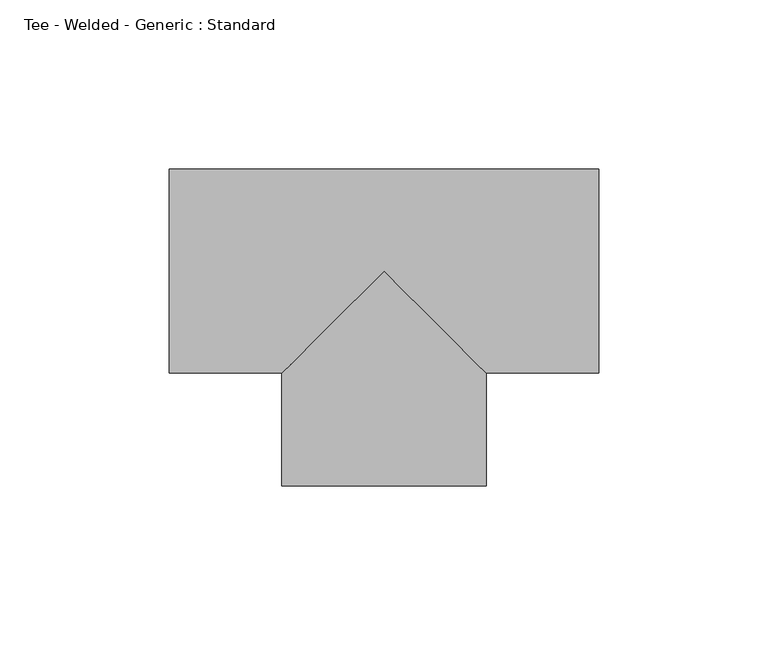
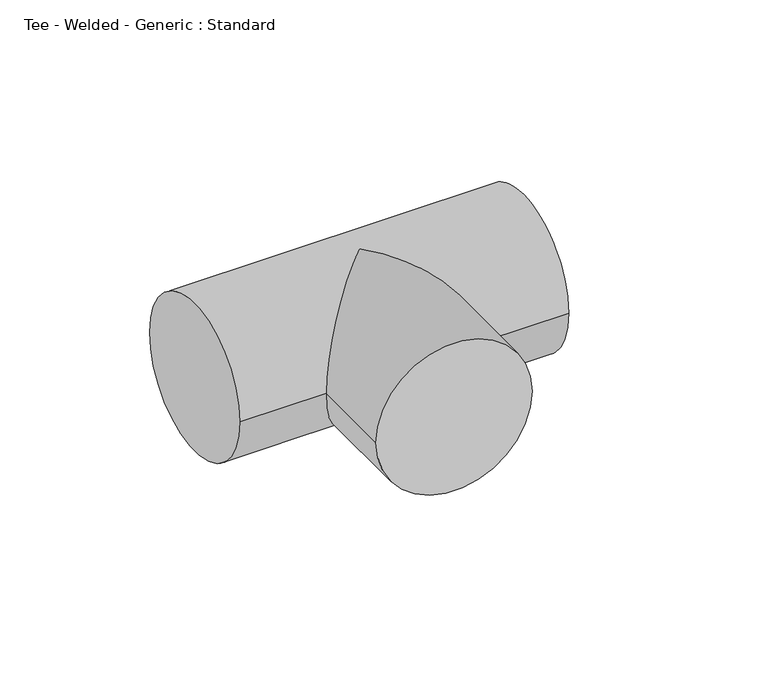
"""IFC4 building model written with IfcOpenShell, lengths in millimetres: pipe fitting geometry, Tee - Welded - Generic : Standard."""

from ifc_helpers import new_model, si_unit, frame, origin, place, context, project, spatial, circle_curve, ellipse_curve, source, transform, mapped, element, save
from ifc_brep_helpers import plane_surface, cylinder_surface, advanced_brep


def tee_welded_generic_standard_5b01b295(model_context):
    return source(origin(), model_context, "Body", "AdvancedBrep", [
        advanced_brep(
        [(-63.5, -30.1625, 0.0), (-63.5, 30.1625, 0.0), (63.5, -30.1625, 0.0), (63.5, 30.1625, 0.0), (-30.1624905, -30.1625, 0.0), (0.0, 0.0, 30.1625), (30.1625095, -30.1625, 0.0), (0.0, 0.0, -30.1625), (-30.1624799, -63.5000095, 0.0), (30.1625201, -63.4999905, 0.0)],
        [
            (0, 1, circle_curve(frame((-63.5, 0.0, 0.0), z_axis=(-1.0, 0.0, 0.0), x_axis=(0.0, 1.0, 0.0)), 30.1625)),
            (1, 0, circle_curve(frame((-63.5, 0.0, 0.0), z_axis=(-1.0, 0.0, 0.0), x_axis=(0.0, 1.0, 0.0)), 30.1625)),
            (2, 3, circle_curve(frame((63.5, 0.0, 0.0), z_axis=(1.0, 0.0, 0.0), x_axis=(0.0, 1.0, 0.0)), 30.1625)),
            (3, 2, circle_curve(frame((63.5, 0.0, 0.0), z_axis=(1.0, 0.0, 0.0), x_axis=(0.0, 1.0, 0.0)), 30.1625)),
            (0, 4),
            (4, 5, ellipse_curve(frame((0.0, 0.0, 0.0), z_axis=(-0.7071068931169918, 0.7071066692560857, 0.0), x_axis=(-0.7071066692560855, -0.7071068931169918, 0.0)), 42.6562098, 30.1625)),
            (5, 6, ellipse_curve(frame((0.0, 0.0, 0.0), z_axis=(0.7071066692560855, 0.7071068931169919, 0.0), x_axis=(-0.7071068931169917, 0.7071066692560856, 0.0)), 42.6562233, 30.1625)),
            (6, 2),
            (3, 1),
            (6, 7, ellipse_curve(frame((0.0, 0.0, 0.0), z_axis=(0.7071066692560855, 0.7071068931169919, 0.0), x_axis=(-0.7071068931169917, 0.7071066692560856, 0.0)), 42.6562233, 30.1625)),
            (7, 4, ellipse_curve(frame((0.0, 0.0, 0.0), z_axis=(-0.7071068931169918, 0.7071066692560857, 0.0), x_axis=(-0.7071066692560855, -0.7071068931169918, 0.0)), 42.6562098, 30.1625)),
            (8, 9, circle_curve(frame((2.01e-05, -63.5, 0.0), z_axis=(3.1658713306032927e-07, -0.9999999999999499, 0.0), x_axis=(0.9999999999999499, 3.1658713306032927e-07, 0.0)), 30.1625)),
            (9, 8, circle_curve(frame((2.01e-05, -63.5, 0.0), z_axis=(3.1658713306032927e-07, -0.9999999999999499, 0.0), x_axis=(0.9999999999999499, 3.1658713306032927e-07, 0.0)), 30.1625)),
            (9, 6),
            (4, 8),
        ],
        [
            plane_surface(frame((-63.5, 0.0, 0.0), z_axis=(-1.0, 0.0, 0.0), x_axis=(0.0, 0.0, 1.0))),
            plane_surface(frame((63.5, 0.0, 0.0), z_axis=(1.0, 0.0, 0.0), x_axis=(0.0, 0.0, 1.0))),
            cylinder_surface(frame((-63.5, 0.0, 0.0), z_axis=(-1.0, 0.0, 0.0), x_axis=(0.0, 1.0, 0.0)), 30.1625),
            plane_surface(frame((2.01e-05, -63.5, 0.0), z_axis=(3.1658713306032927e-07, -0.9999999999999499, 0.0), x_axis=(0.0, 0.0, 1.0))),
            cylinder_surface(frame((0.0, 0.0, 0.0), z_axis=(-3.1658713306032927e-07, 0.9999999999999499, 0.0), x_axis=(0.9999999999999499, 3.1658713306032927e-07, 0.0)), 30.1625),
        ],
        [
            (0, [[1, 2]]),
            (1, [[3, 4]]),
            (2, [[-1, 5, 6, 7, 8, -4, 9]]),
            (2, [[-2, -9, -3, -8, 10, 11, -5]]),
            (3, [[12, 13]]),
            (4, [[-13, 14, -7, -6, 15]]),
            (4, [[-12, -15, -11, -10, -14]]),
        ],
    ),
    ])


if __name__ == "__main__":
    model = new_model("IFC4")
    model_context = context("Model", 3, world=origin())
    ifc_project = project(units=[si_unit("LENGTHUNIT", "METRE", prefix="MILLI")], contexts=[model_context])
    site = spatial("IfcSite", under=ifc_project)
    building = spatial("IfcBuilding", under=site)
    placement = place(None, origin())
    tee_welded_generic_standard_shape = tee_welded_generic_standard_5b01b295(model_context)
    element("IfcPipeFitting", 1, ObjectType="Tee - Welded - Generic : Standard", at=placement, inside=building, context=model_context, shape_type="MappedRepresentation", body=[
        mapped(tee_welded_generic_standard_shape, transform((0.0, 0.0, 0.0), x_axis=(1.0, 0.0, 0.0), y_axis=(0.0, 1.0, 0.0), z_axis=(0.0, 0.0, 1.0))),
    ])
    save(model, "model.ifc")
